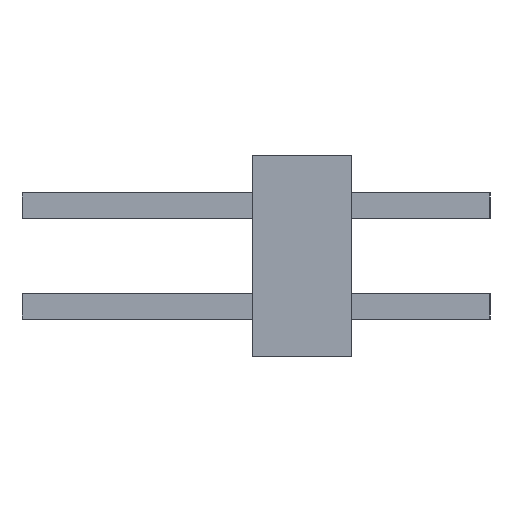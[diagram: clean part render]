
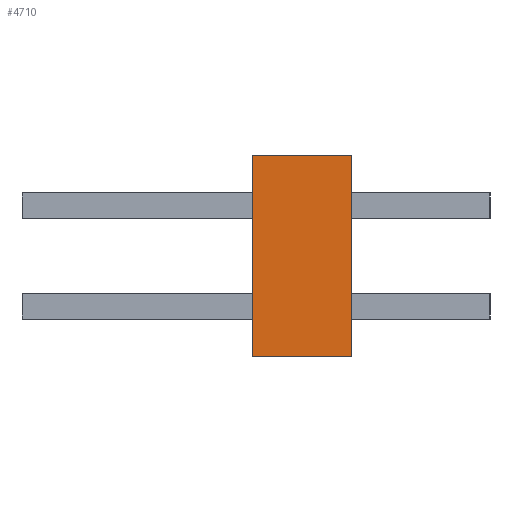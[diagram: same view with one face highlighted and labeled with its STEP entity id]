
A CAD part, left-side view. The second image highlights one B-rep face of the part: STEP entity #4710.
In plain terms, the highlighted planar face has unit normal (-1, 0, 0).
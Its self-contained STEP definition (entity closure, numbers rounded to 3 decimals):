
#125 = PLANE('',#126);
#126 = AXIS2_PLACEMENT_3D('',#127,#128,#129);
#127 = CARTESIAN_POINT('',(-35.4,1.45,-27.04));
#128 = DIRECTION('',(-0.,1.,0.));
#129 = DIRECTION('',(0.,0.,1.));
#214 = VERTEX_POINT('',#215);
#215 = CARTESIAN_POINT('',(-35.4,1.45,-27.04));
#231 = PLANE('',#232);
#232 = AXIS2_PLACEMENT_3D('',#233,#234,#235);
#233 = CARTESIAN_POINT('',(-35.4,1.45,-27.04));
#234 = DIRECTION('',(0.,0.,1.));
#235 = DIRECTION('',(1.,0.,-0.));
#243 = EDGE_CURVE('',#214,#244,#246,.T.);
#244 = VERTEX_POINT('',#245);
#245 = CARTESIAN_POINT('',(-35.4,1.45,-21.96));
#246 = SURFACE_CURVE('',#247,(#251,#258),.PCURVE_S1.);
#247 = LINE('',#248,#249);
#248 = CARTESIAN_POINT('',(-35.4,1.45,-27.04));
#249 = VECTOR('',#250,1.);
#250 = DIRECTION('',(0.,0.,1.));
#251 = PCURVE('',#125,#252);
#252 = DEFINITIONAL_REPRESENTATION('',(#253),#257);
#253 = LINE('',#254,#255);
#254 = CARTESIAN_POINT('',(0.,0.));
#255 = VECTOR('',#256,1.);
#256 = DIRECTION('',(1.,0.));
#257 = ( GEOMETRIC_REPRESENTATION_CONTEXT(2) 
PARAMETRIC_REPRESENTATION_CONTEXT() REPRESENTATION_CONTEXT('2D SPACE',''
  ) );
#258 = PCURVE('',#259,#264);
#259 = PLANE('',#260);
#260 = AXIS2_PLACEMENT_3D('',#261,#262,#263);
#261 = CARTESIAN_POINT('',(-35.4,1.45,-27.04));
#262 = DIRECTION('',(1.,0.,-0.));
#263 = DIRECTION('',(0.,0.,1.));
#264 = DEFINITIONAL_REPRESENTATION('',(#265),#269);
#265 = LINE('',#266,#267);
#266 = CARTESIAN_POINT('',(0.,0.));
#267 = VECTOR('',#268,1.);
#268 = DIRECTION('',(1.,0.));
#269 = ( GEOMETRIC_REPRESENTATION_CONTEXT(2) 
PARAMETRIC_REPRESENTATION_CONTEXT() REPRESENTATION_CONTEXT('2D SPACE',''
  ) );
#287 = PLANE('',#288);
#288 = AXIS2_PLACEMENT_3D('',#289,#290,#291);
#289 = CARTESIAN_POINT('',(-35.4,1.45,-21.96));
#290 = DIRECTION('',(0.,0.,1.));
#291 = DIRECTION('',(1.,0.,-0.));
#4589 = EDGE_CURVE('',#214,#4590,#4592,.T.);
#4590 = VERTEX_POINT('',#4591);
#4591 = CARTESIAN_POINT('',(-35.4,3.95,-27.04));
#4592 = SURFACE_CURVE('',#4593,(#4597,#4604),.PCURVE_S1.);
#4593 = LINE('',#4594,#4595);
#4594 = CARTESIAN_POINT('',(-35.4,1.45,-27.04));
#4595 = VECTOR('',#4596,1.);
#4596 = DIRECTION('',(-0.,1.,0.));
#4597 = PCURVE('',#231,#4598);
#4598 = DEFINITIONAL_REPRESENTATION('',(#4599),#4603);
#4599 = LINE('',#4600,#4601);
#4600 = CARTESIAN_POINT('',(0.,0.));
#4601 = VECTOR('',#4602,1.);
#4602 = DIRECTION('',(0.,1.));
#4603 = ( GEOMETRIC_REPRESENTATION_CONTEXT(2) 
PARAMETRIC_REPRESENTATION_CONTEXT() REPRESENTATION_CONTEXT('2D SPACE',''
  ) );
#4604 = PCURVE('',#259,#4605);
#4605 = DEFINITIONAL_REPRESENTATION('',(#4606),#4610);
#4606 = LINE('',#4607,#4608);
#4607 = CARTESIAN_POINT('',(0.,0.));
#4608 = VECTOR('',#4609,1.);
#4609 = DIRECTION('',(0.,-1.));
#4610 = ( GEOMETRIC_REPRESENTATION_CONTEXT(2) 
PARAMETRIC_REPRESENTATION_CONTEXT() REPRESENTATION_CONTEXT('2D SPACE',''
  ) );
#4650 = PLANE('',#4651);
#4651 = AXIS2_PLACEMENT_3D('',#4652,#4653,#4654);
#4652 = CARTESIAN_POINT('',(-35.4,3.95,-27.04));
#4653 = DIRECTION('',(-0.,1.,0.));
#4654 = DIRECTION('',(0.,0.,1.));
#4710 = ADVANCED_FACE('',(#4711),#259,.F.);
#4711 = FACE_BOUND('',#4712,.F.);
#4712 = EDGE_LOOP('',(#4713,#4714,#4715,#4738));
#4713 = ORIENTED_EDGE('',*,*,#243,.F.);
#4714 = ORIENTED_EDGE('',*,*,#4589,.T.);
#4715 = ORIENTED_EDGE('',*,*,#4716,.T.);
#4716 = EDGE_CURVE('',#4590,#4717,#4719,.T.);
#4717 = VERTEX_POINT('',#4718);
#4718 = CARTESIAN_POINT('',(-35.4,3.95,-21.96));
#4719 = SURFACE_CURVE('',#4720,(#4724,#4731),.PCURVE_S1.);
#4720 = LINE('',#4721,#4722);
#4721 = CARTESIAN_POINT('',(-35.4,3.95,-27.04));
#4722 = VECTOR('',#4723,1.);
#4723 = DIRECTION('',(0.,0.,1.));
#4724 = PCURVE('',#259,#4725);
#4725 = DEFINITIONAL_REPRESENTATION('',(#4726),#4730);
#4726 = LINE('',#4727,#4728);
#4727 = CARTESIAN_POINT('',(0.,-2.5));
#4728 = VECTOR('',#4729,1.);
#4729 = DIRECTION('',(1.,0.));
#4730 = ( GEOMETRIC_REPRESENTATION_CONTEXT(2) 
PARAMETRIC_REPRESENTATION_CONTEXT() REPRESENTATION_CONTEXT('2D SPACE',''
  ) );
#4731 = PCURVE('',#4650,#4732);
#4732 = DEFINITIONAL_REPRESENTATION('',(#4733),#4737);
#4733 = LINE('',#4734,#4735);
#4734 = CARTESIAN_POINT('',(0.,0.));
#4735 = VECTOR('',#4736,1.);
#4736 = DIRECTION('',(1.,0.));
#4737 = ( GEOMETRIC_REPRESENTATION_CONTEXT(2) 
PARAMETRIC_REPRESENTATION_CONTEXT() REPRESENTATION_CONTEXT('2D SPACE',''
  ) );
#4738 = ORIENTED_EDGE('',*,*,#4739,.F.);
#4739 = EDGE_CURVE('',#244,#4717,#4740,.T.);
#4740 = SURFACE_CURVE('',#4741,(#4745,#4752),.PCURVE_S1.);
#4741 = LINE('',#4742,#4743);
#4742 = CARTESIAN_POINT('',(-35.4,1.45,-21.96));
#4743 = VECTOR('',#4744,1.);
#4744 = DIRECTION('',(-0.,1.,0.));
#4745 = PCURVE('',#259,#4746);
#4746 = DEFINITIONAL_REPRESENTATION('',(#4747),#4751);
#4747 = LINE('',#4748,#4749);
#4748 = CARTESIAN_POINT('',(5.08,0.));
#4749 = VECTOR('',#4750,1.);
#4750 = DIRECTION('',(0.,-1.));
#4751 = ( GEOMETRIC_REPRESENTATION_CONTEXT(2) 
PARAMETRIC_REPRESENTATION_CONTEXT() REPRESENTATION_CONTEXT('2D SPACE',''
  ) );
#4752 = PCURVE('',#287,#4753);
#4753 = DEFINITIONAL_REPRESENTATION('',(#4754),#4758);
#4754 = LINE('',#4755,#4756);
#4755 = CARTESIAN_POINT('',(0.,0.));
#4756 = VECTOR('',#4757,1.);
#4757 = DIRECTION('',(0.,1.));
#4758 = ( GEOMETRIC_REPRESENTATION_CONTEXT(2) 
PARAMETRIC_REPRESENTATION_CONTEXT() REPRESENTATION_CONTEXT('2D SPACE',''
  ) );
